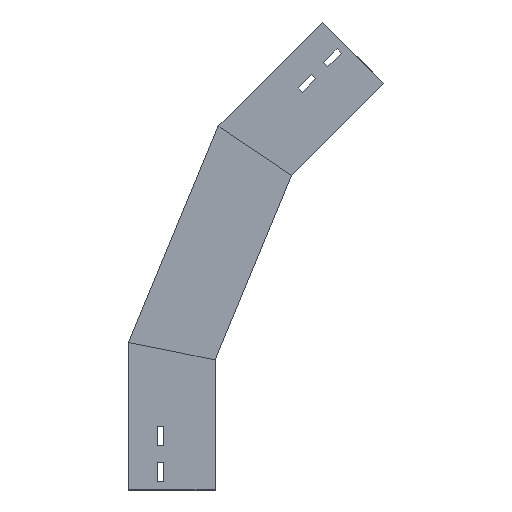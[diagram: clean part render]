
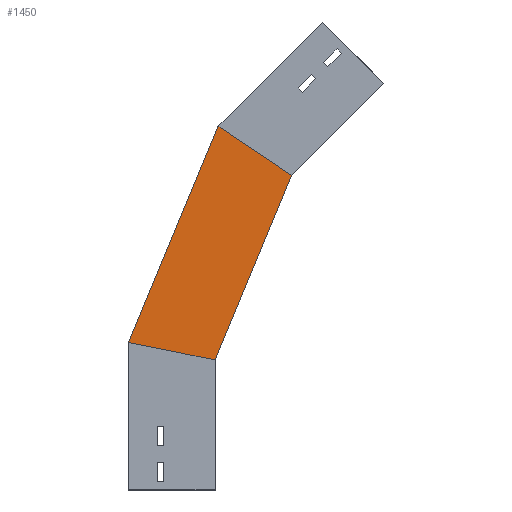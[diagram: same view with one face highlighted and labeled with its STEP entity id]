
A CAD part, left-side view. The second image highlights one B-rep face of the part: STEP entity #1450.
In plain terms, the highlighted planar face has unit normal (-1, 0, 0) as drawn and (1, 0, 0) by its records, which use the part's own axes.
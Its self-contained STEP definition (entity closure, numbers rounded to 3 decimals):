
#44 = CARTESIAN_POINT ( 'NONE',  ( 0., 8.412, 129.693 ) ) ;
#120 = CARTESIAN_POINT ( 'NONE',  ( 0., 0., 150. ) ) ;
#155 = FACE_OUTER_BOUND ( 'NONE', #1150, .T. ) ;
#202 = EDGE_CURVE ( 'NONE', #1484, #527, #575, .T. ) ;
#276 = DIRECTION ( 'NONE',  ( 0., -0.383, 0.924 ) ) ;
#303 = CARTESIAN_POINT ( 'NONE',  ( 0., -88.017, 362.492 ) ) ;
#335 = DIRECTION ( 'NONE',  ( 0., -0.981, -0.195 ) ) ;
#356 = VECTOR ( 'NONE', #875, 1000. ) ;
#359 = DIRECTION ( 'NONE',  ( 0., -0.831, -0.556 ) ) ;
#394 = CARTESIAN_POINT ( 'NONE',  ( 0., 8.412, 129.693 ) ) ;
#399 = CARTESIAN_POINT ( 'NONE',  ( 0., 100.799, 167.961 ) ) ;
#430 = EDGE_CURVE ( 'NONE', #1484, #879, #632, .T. ) ;
#473 = EDGE_CURVE ( 'NONE', #527, #870, #1327, .T. ) ;
#492 = DIRECTION ( 'NONE',  ( 1., 0., 0. ) ) ;
#527 = VERTEX_POINT ( 'NONE', #120 ) ;
#538 = DIRECTION ( 'NONE',  ( 0., 0., -1. ) ) ;
#550 = VECTOR ( 'NONE', #276, 1000. ) ;
#573 = EDGE_CURVE ( 'NONE', #879, #870, #1409, .T. ) ;
#575 = LINE ( 'NONE', #1142, #825 ) ;
#611 = AXIS2_PLACEMENT_3D ( 'NONE', #44, #492, #538 ) ;
#618 = ORIENTED_EDGE ( 'NONE', *, *, #573, .T. ) ;
#632 = LINE ( 'NONE', #399, #356 ) ;
#677 = ORIENTED_EDGE ( 'NONE', *, *, #430, .T. ) ;
#822 = CARTESIAN_POINT ( 'NONE',  ( 0., -128.891, 335.181 ) ) ;
#825 = VECTOR ( 'NONE', #335, 1000. ) ;
#870 = VERTEX_POINT ( 'NONE', #303 ) ;
#875 = DIRECTION ( 'NONE',  ( 0., -0.383, 0.924 ) ) ;
#879 = VERTEX_POINT ( 'NONE', #980 ) ;
#980 = CARTESIAN_POINT ( 'NONE',  ( 0., -3.241, 419.138 ) ) ;
#1036 = ORIENTED_EDGE ( 'NONE', *, *, #473, .F. ) ;
#1073 = PLANE ( 'NONE',  #611 ) ;
#1142 = CARTESIAN_POINT ( 'NONE',  ( 0., -28.701, 144.291 ) ) ;
#1150 = EDGE_LOOP ( 'NONE', ( #677, #618, #1036, #1439 ) ) ;
#1229 = VECTOR ( 'NONE', #359, 1000. ) ;
#1327 = LINE ( 'NONE', #394, #550 ) ;
#1331 = CARTESIAN_POINT ( 'NONE',  ( 0., 100., 169.891 ) ) ;
#1409 = LINE ( 'NONE', #822, #1229 ) ;
#1439 = ORIENTED_EDGE ( 'NONE', *, *, #202, .F. ) ;
#1450 = ADVANCED_FACE ( 'NONE', ( #155 ), #1073, .T. ) ;
#1484 = VERTEX_POINT ( 'NONE', #1331 ) ;
